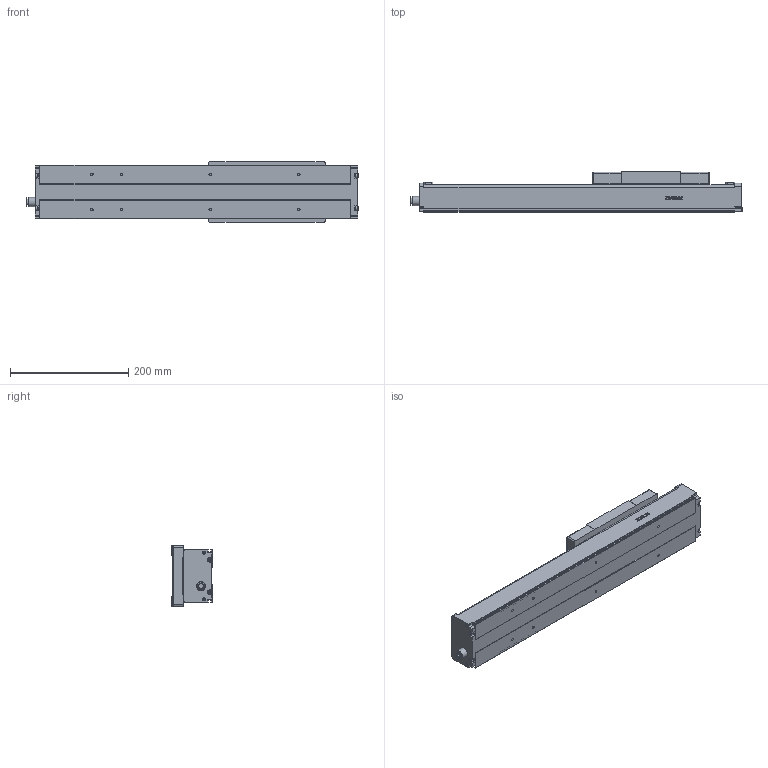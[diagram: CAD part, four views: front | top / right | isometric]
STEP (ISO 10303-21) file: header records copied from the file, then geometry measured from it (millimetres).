
FILE_DESCRIPTION(/* description */ (''),/* implementation_level */ '2;1');
FILE_NAME(/* name */ 'D:\混合母檔20191031\混和母檔\混和母檔\bin\Debug\Download\3D\KS90-10C-250AF0\KS90-10C-250AF0.stp',/* time_stamp */ '2019-11-04T14:39:49+08:00',/* author */ ('user'),/* organization */ (''),/* preprocessor_version */ 'ST-DEVELOPER v16.13',/* originating_system */ 'Autodesk Inventor 2018',/* authorisation */ '');
FILE_SCHEMA (('AUTOMOTIVE_DESIGN { 1 0 10303 214 3 1 1 }'));
Length unit declared in the file: millimetre
Products named in the file (3): KS90-10C-250AF0; KS90-F0; KS90-SL
Assembly tree (2 placements, depth 2):
  KS90-10C-250AF0
    KS90-F0
    KS90-SL
Bounding box: 561.6 x 68.5 x 102.4 mm (x, y, z)
Volume: 1053538.6 mm3; surface area: 378926.1 mm2
Topology: 3 solids, 13 shells, 1015 faces, 2782 edges, 1836 vertices
Faces by surface type: plane 563, cylinder 144, bspline 136, cone 120, torus 48, sphere 4
Full cylindrical faces by diameter (mm): 2.113 x2, 2.459 x8, 2.5 x4, 2.693 x8, 3 x12, 3.242 x6, 3.5 x8, 4 x7, 4.134 x8, 4.5 x8, 4.917 x4, 5.5 x12, 6 x3, 7 x4, 8 x2, 10.437 x1, 11 x1, 11.5 x1, 14 x1, 15.538 x1, 28 x1, 30 x1
Entity records: 37793 total; most frequent: CARTESIAN_POINT 14038, ORIENTED_EDGE 5006, DIRECTION 4436, EDGE_CURVE 2503, VERTEX_POINT 1725, LINE 1498, VECTOR 1498, AXIS2_PLACEMENT_3D 1469
